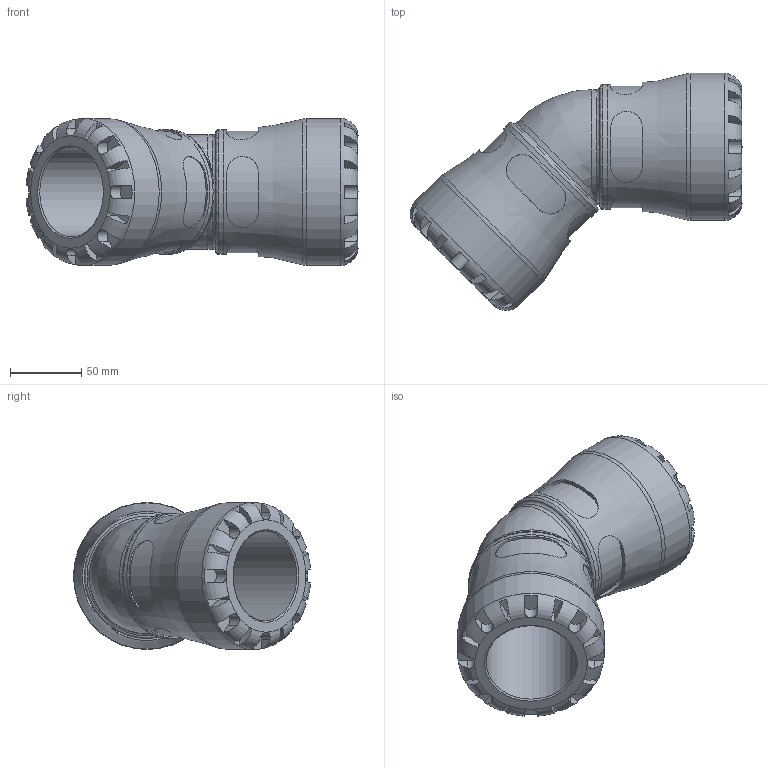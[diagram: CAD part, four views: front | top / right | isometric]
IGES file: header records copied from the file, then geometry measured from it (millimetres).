
Global section: file name: 100600063_190600063.ipt; native system: Autodesk Inventor 2015; preprocessor: unknown; author: KIM; date: 20170122.114543; units: millimetre
Bounding box: 232.65 x 166.15 x 103 mm (x, y, z)
Volume: 907368 mm3; surface area: 131503.4 mm2
Topology: 1 solids, 1 shells, 196 faces, 516 edges, 328 vertices
Faces by surface type: plane 116, revolution 49, cylinder 30, bspline 1
Full cylindrical faces by diameter (mm): 87.55 x2, 103 x2
